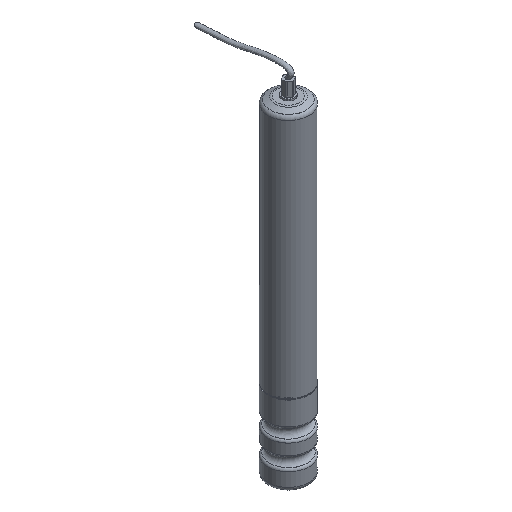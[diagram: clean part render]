
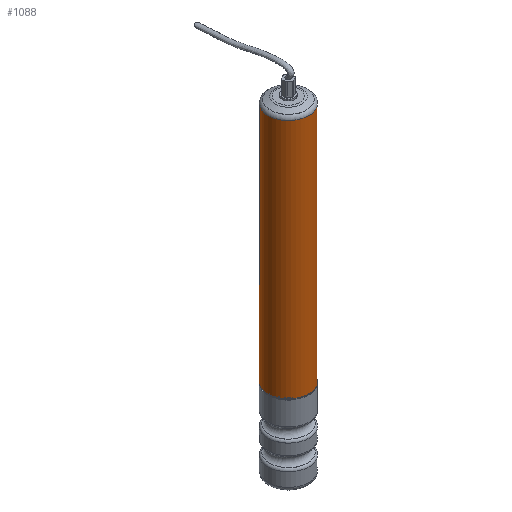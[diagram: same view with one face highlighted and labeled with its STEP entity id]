
A CAD part, isometric view. The second image highlights one B-rep face of the part: STEP entity #1088.
In plain terms, the highlighted cylindrical face has radius 25 mm (diameter 50 mm), a full revolution.
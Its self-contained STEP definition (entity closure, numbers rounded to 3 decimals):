
#119=FACE_OUTER_BOUND('',#196,.T.);
#196=EDGE_LOOP('',(#839,#840,#841,#842));
#260=LINE('',#2786,#306);
#306=VECTOR('',#1557,25.);
#376=CIRCLE('',#1241,25.);
#377=CIRCLE('',#1243,25.);
#479=VERTEX_POINT('',#2781);
#480=VERTEX_POINT('',#2784);
#607=EDGE_CURVE('',#479,#479,#376,.T.);
#608=EDGE_CURVE('',#480,#480,#377,.T.);
#609=EDGE_CURVE('',#480,#479,#260,.T.);
#839=ORIENTED_EDGE('',*,*,#608,.F.);
#840=ORIENTED_EDGE('',*,*,#609,.T.);
#841=ORIENTED_EDGE('',*,*,#607,.T.);
#842=ORIENTED_EDGE('',*,*,#609,.F.);
#966=CYLINDRICAL_SURFACE('',#1242,25.);
#1088=ADVANCED_FACE('',(#119),#966,.T.);
#1241=AXIS2_PLACEMENT_3D('',#2782,#1551,#1552);
#1242=AXIS2_PLACEMENT_3D('',#2783,#1553,#1554);
#1243=AXIS2_PLACEMENT_3D('',#2785,#1555,#1556);
#1551=DIRECTION('center_axis',(0.,0.,1.));
#1552=DIRECTION('ref_axis',(1.,0.,0.));
#1553=DIRECTION('center_axis',(0.,0.,1.));
#1554=DIRECTION('ref_axis',(1.,0.,0.));
#1555=DIRECTION('center_axis',(0.,0.,1.));
#1556=DIRECTION('ref_axis',(1.,0.,0.));
#1557=DIRECTION('',(0.,0.,-1.));
#2781=CARTESIAN_POINT('',(-25.,0.,108.));
#2782=CARTESIAN_POINT('Origin',(0.,0.,108.));
#2783=CARTESIAN_POINT('Origin',(0.,0.,7.));
#2784=CARTESIAN_POINT('',(-25.,0.,399.91));
#2785=CARTESIAN_POINT('Origin',(0.,0.,399.91));
#2786=CARTESIAN_POINT('',(-25.,0.,7.));
